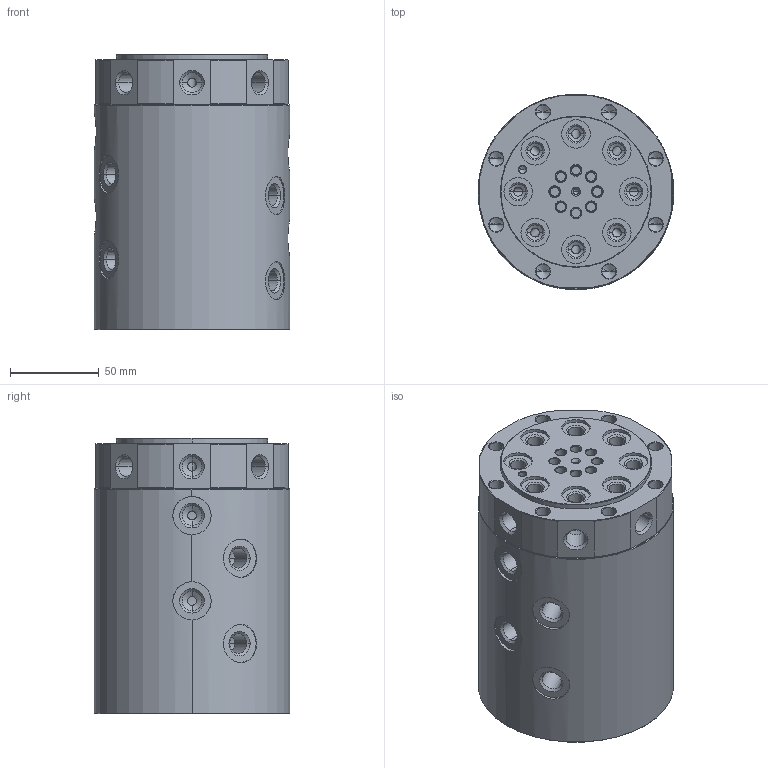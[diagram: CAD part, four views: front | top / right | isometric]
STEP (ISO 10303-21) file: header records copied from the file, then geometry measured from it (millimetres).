
FILE_DESCRIPTION(/* description */ (''),/* implementation_level */ '2;1');
FILE_NAME(/* name */ '08.stp',/* time_stamp */ '2024-09-03T09:16:36+08:00',/* author */ (''),/* organization */ (''),/* preprocessor_version */ 'ST-DEVELOPER v16.7',/* originating_system */ 'SIEMENS PLM Software NX 12.0',/* authorisation */ '');
FILE_SCHEMA (('AP203_CONFIGURATION_CONTROLLED_3D_DESIGN_OF_MECHANICAL_PARTS_AND_ASSEMBLIES_MIM_LF { 1 0 10303 403 2 1 2}'));
Length unit declared in the file: millimetre
Products named in the file (1): TMA08-S-A_stp
Bounding box: 110 x 110 x 155 mm (x, y, z)
Volume: 1416150.1 mm3; surface area: 117153.1 mm2
Topology: 2 solids, 2 shells, 478 faces, 1112 edges, 634 vertices
Faces by surface type: cylinder 226, cone 208, plane 40, torus 4
Entity records: 14036 total; most frequent: CARTESIAN_POINT 2913, DIRECTION 2518, ORIENTED_EDGE 2152, EDGE_CURVE 1076, AXIS2_PLACEMENT_3D 1031, VERTEX_POINT 634, EDGE_LOOP 558, CIRCLE 496
